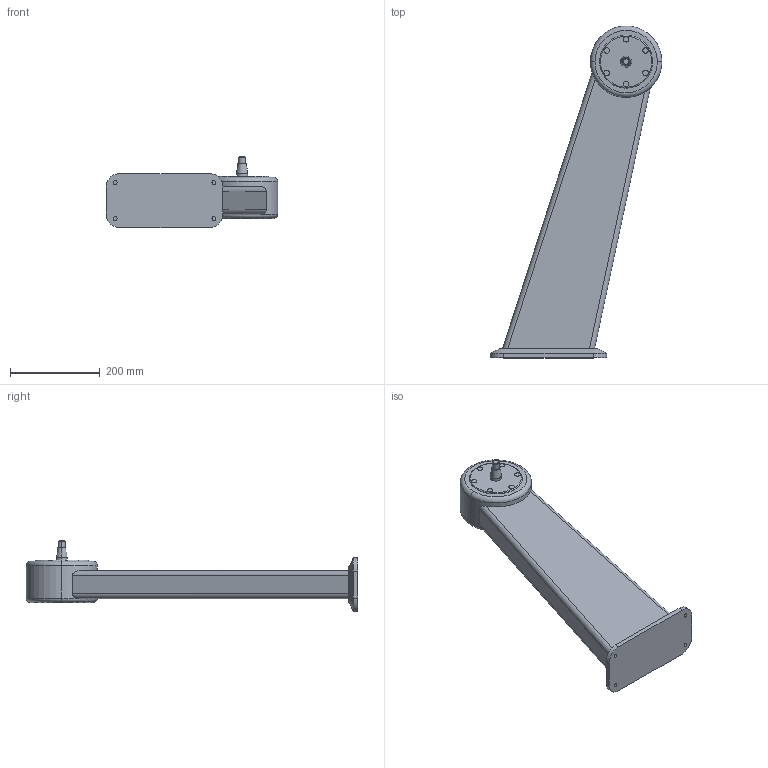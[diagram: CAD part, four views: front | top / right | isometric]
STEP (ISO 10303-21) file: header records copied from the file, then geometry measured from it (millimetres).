
FILE_DESCRIPTION (( 'STEP AP214' ), '1' );
FILE_NAME ('WP700_H660_-15.STEP', '2014-08-14T09:50:48', ( '' ), ( '' ), 'SwSTEP 2.0', 'SolidWorks 2014', '' );
FILE_SCHEMA (( 'AUTOMOTIVE_DESIGN' ));
Length unit declared in the file: millimetre
Products named in the file (1): WP700_H660_-15
Bounding box: 382.39 x 739.5 x 158.3 mm (x, y, z)
Volume: 8543043.8 mm3; surface area: 397604.4 mm2
Topology: 1 solids, 1 shells, 79 faces, 171 edges, 108 vertices
Faces by surface type: cylinder 36, plane 29, cone 8, torus 6
Entity records: 2294 total; most frequent: CARTESIAN_POINT 475, DIRECTION 408, ORIENTED_EDGE 342, EDGE_CURVE 171, AXIS2_PLACEMENT_3D 167, VERTEX_POINT 108, EDGE_LOOP 93, CIRCLE 87
